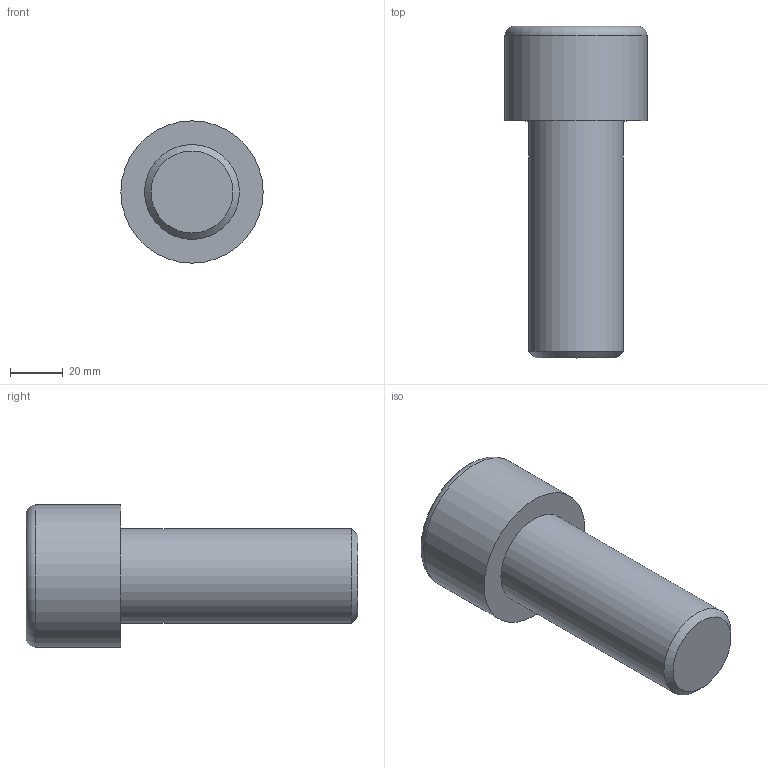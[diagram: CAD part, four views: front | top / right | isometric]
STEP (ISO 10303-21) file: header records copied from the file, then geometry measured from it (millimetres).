
FILE_DESCRIPTION(/* description */ (''),/* implementation_level */ '2;1');
FILE_NAME(/* name */ 'C:\Users\D\Documents\Inventor\各種小物\JIS\JIS B 1176 六角穴付きボルト\M36x90.stp',/* time_stamp */ '2022-05-09T19:04:10+09:00',/* author */ ('D'),/* organization */ (''),/* preprocessor_version */ 'ST-DEVELOPER v18',/* originating_system */ 'Autodesk Inventor 2020',/* authorisation */ '');
FILE_SCHEMA (('AUTOMOTIVE_DESIGN { 1 0 10303 214 3 1 1 }'));
Length unit declared in the file: millimetre
Products named in the file (1): M1.6x2.5
Bounding box: 54 x 126 x 54 mm (x, y, z)
Volume: 159052.3 mm3; surface area: 22377.3 mm2
Topology: 1 solids, 1 shells, 14 faces, 33 edges, 22 vertices
Faces by surface type: plane 9, cone 2, cylinder 2, torus 1
Full cylindrical faces by diameter (mm): 36 x1, 54 x1
Entity records: 435 total; most frequent: CARTESIAN_POINT 83, ORIENTED_EDGE 64, DIRECTION 64, EDGE_CURVE 32, AXIS2_PLACEMENT_3D 24, VERTEX_POINT 22, EDGE_LOOP 16, LINE 16
